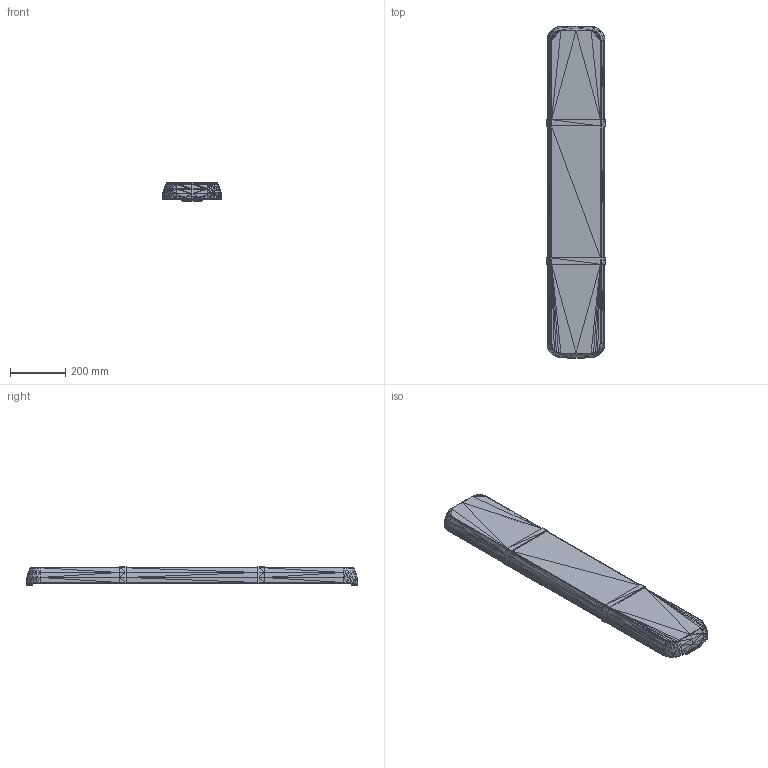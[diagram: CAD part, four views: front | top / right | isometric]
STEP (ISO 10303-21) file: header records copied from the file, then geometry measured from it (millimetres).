
FILE_DESCRIPTION(('FreeCAD Model'),'2;1');
FILE_NAME('H:/a_nauka/osoby_prywatne/06_trzebinia/2021/12marca/optima60-bp-120cm.step','2021-03-12T17:19:56',( 'Author'),(''),'Open CASCADE STEP processor 7.2','FreeCAD','Unknown' );
FILE_SCHEMA(('AUTOMOTIVE_DESIGN { 1 0 10303 214 1 1 1 1 }'));
Products named in the file (1): OPTIMA60_BP_120cm001
Bounding box: 216 x 1205 x 68.5 mm (x, y, z)
Surface area: 2044098.7 mm2 (no closed solid volume)
Topology: 0 solids, 6 shells, 13388 faces, 20089 edges, 5999 vertices
Faces by surface type: plane 13388
Entity records: 501139 total; most frequent: CARTESIAN_POINT 99760, DIRECTION 67023, LINE 40245, VECTOR 40245, ORIENTED_EDGE 40200, PCURVE 40200, DEFINITIONAL_REPRESENTATION 40200, EDGE_CURVE 20107
